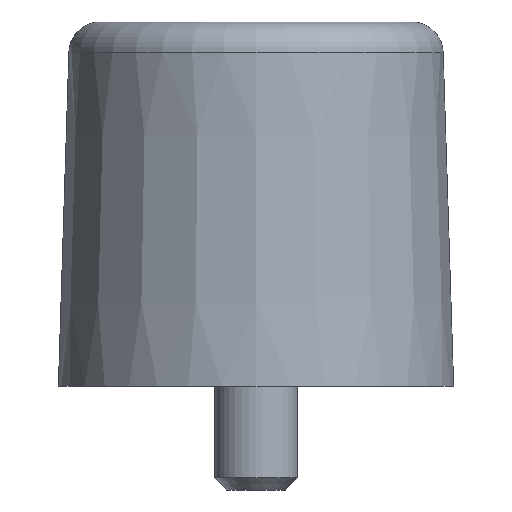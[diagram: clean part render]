
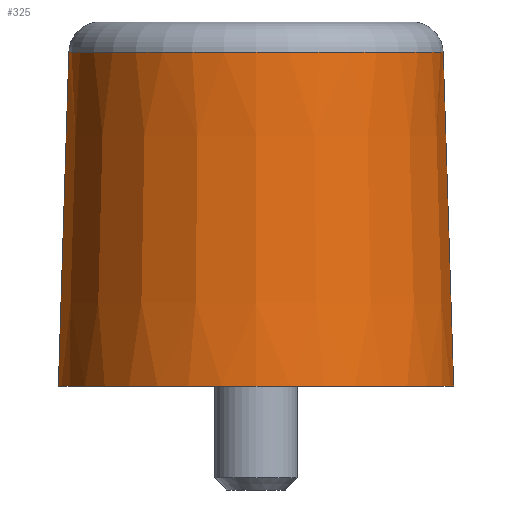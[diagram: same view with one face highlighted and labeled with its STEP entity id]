
A CAD part, left-side view. The second image highlights one B-rep face of the part: STEP entity #325.
In plain terms, the highlighted conical face has half-angle 1.787 degrees and reference radius 19 mm.
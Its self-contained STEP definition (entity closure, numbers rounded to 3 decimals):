
#65 = VERTEX_POINT ( 'NONE', #120 ) ;
#67 = CARTESIAN_POINT ( 'NONE',  ( 0., -19., 0. ) ) ;
#73 = DIRECTION ( 'NONE',  ( 0., 0., 1. ) ) ;
#90 = VERTEX_POINT ( 'NONE', #250 ) ;
#92 = AXIS2_PLACEMENT_3D ( 'NONE', #402, #73, #441 ) ;
#98 = EDGE_CURVE ( 'NONE', #65, #222, #358, .T. ) ;
#119 = LINE ( 'NONE', #228, #243 ) ;
#120 = CARTESIAN_POINT ( 'NONE',  ( 0., -17.999, 32.094 ) ) ;
#134 = DIRECTION ( 'NONE',  ( 0., 0., 1. ) ) ;
#152 = EDGE_CURVE ( 'NONE', #90, #65, #270, .T. ) ;
#177 = DIRECTION ( 'NONE',  ( 0., 0., -1. ) ) ;
#180 = DIRECTION ( 'NONE',  ( 0., 1., 0. ) ) ;
#193 = CARTESIAN_POINT ( 'NONE',  ( 0., 19., 0. ) ) ;
#202 = VECTOR ( 'NONE', #209, 1000. ) ;
#209 = DIRECTION ( 'NONE',  ( 0., -0.031, -1. ) ) ;
#213 = AXIS2_PLACEMENT_3D ( 'NONE', #266, #177, #180 ) ;
#217 = ORIENTED_EDGE ( 'NONE', *, *, #152, .F. ) ;
#222 = VERTEX_POINT ( 'NONE', #67 ) ;
#228 = CARTESIAN_POINT ( 'NONE',  ( 0., 19., 0. ) ) ;
#237 = CIRCLE ( 'NONE', #92, 19. ) ;
#240 = ORIENTED_EDGE ( 'NONE', *, *, #98, .F. ) ;
#243 = VECTOR ( 'NONE', #351, 1000. ) ;
#245 = EDGE_CURVE ( 'NONE', #459, #222, #237, .T. ) ;
#250 = CARTESIAN_POINT ( 'NONE',  ( 0., 17.999, 32.094 ) ) ;
#266 = CARTESIAN_POINT ( 'NONE',  ( 0., 0., 0. ) ) ;
#270 = CIRCLE ( 'NONE', #277, 17.999 ) ;
#277 = AXIS2_PLACEMENT_3D ( 'NONE', #429, #134, #401 ) ;
#299 = ORIENTED_EDGE ( 'NONE', *, *, #413, .T. ) ;
#325 = ADVANCED_FACE ( 'NONE', ( #410 ), #371, .T. ) ;
#336 = ORIENTED_EDGE ( 'NONE', *, *, #245, .T. ) ;
#351 = DIRECTION ( 'NONE',  ( 0., 0.031, -1. ) ) ;
#358 = LINE ( 'NONE', #390, #202 ) ;
#371 = CONICAL_SURFACE ( 'NONE', #213, 19., 0.031 ) ;
#373 = EDGE_LOOP ( 'NONE', ( #240, #217, #299, #336 ) ) ;
#390 = CARTESIAN_POINT ( 'NONE',  ( 0., -19., 0. ) ) ;
#401 = DIRECTION ( 'NONE',  ( 0., -1., 0. ) ) ;
#402 = CARTESIAN_POINT ( 'NONE',  ( 0., 0., 0. ) ) ;
#410 = FACE_OUTER_BOUND ( 'NONE', #373, .T. ) ;
#413 = EDGE_CURVE ( 'NONE', #90, #459, #119, .T. ) ;
#429 = CARTESIAN_POINT ( 'NONE',  ( 0., 0., 32.094 ) ) ;
#441 = DIRECTION ( 'NONE',  ( 0., -1., 0. ) ) ;
#459 = VERTEX_POINT ( 'NONE', #193 ) ;
